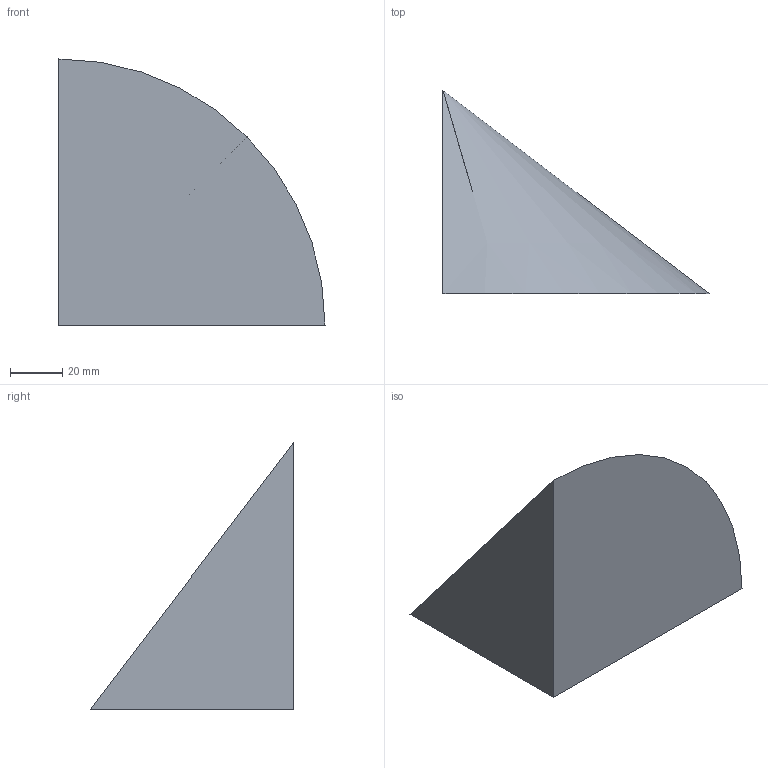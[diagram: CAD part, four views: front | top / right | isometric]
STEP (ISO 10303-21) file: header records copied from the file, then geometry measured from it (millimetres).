
FILE_DESCRIPTION(('CATIA V5 STEP Exchange'),'2;1');
FILE_NAME('C:\_Andres\UNIVERSIDAD\IQS\ASIGNATURAS\DAO\EXF\EXF-16172c\2inicio\Barrenechea_Bonifacio_Ej07_v2.stp','2017-03-05T21:18:10+00:00',('none'),('none'),'CATIA Version 5-6 Release 2014 SP1 HF18','CATIA V5 STEP AP203','none');
FILE_SCHEMA(('CONFIG_CONTROL_DESIGN'));
Length unit declared in the file: millimetre
Products named in the file (1): Barrenechea_Bonifacio_Ej07_v2
Bounding box: 102 x 78 x 102 mm (x, y, z)
Volume: 212453.3 mm3; surface area: 26413.9 mm2
Topology: 1 solids, 1 shells, 4 faces, 7 edges, 4 vertices
Faces by surface type: plane 3, cone 1
Entity records: 131 total; most frequent: CARTESIAN_POINT 15, DIRECTION 14, ORIENTED_EDGE 12, AXIS2_PLACEMENT_3D 6, EDGE_CURVE 6, VECTOR 5, LINE 5, ADVANCED_FACE 4
